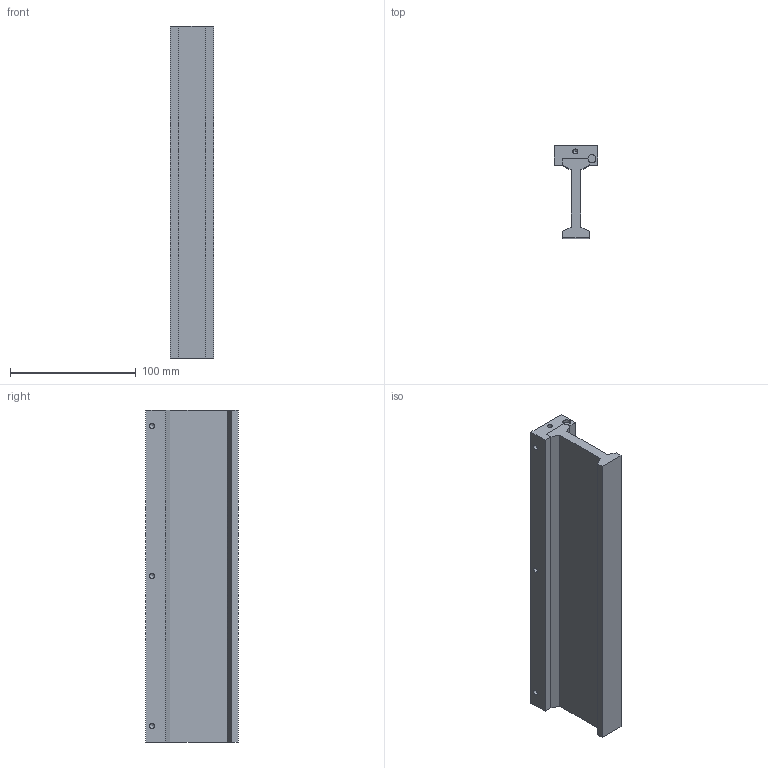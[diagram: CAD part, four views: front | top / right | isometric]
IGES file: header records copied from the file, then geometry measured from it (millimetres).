
Global section: file name: No Iges File Name specified; native system: AutoDesk Inventor R11.0; preprocessor: AutoDesk Inventor Iges Exporter R11.0; author: No Author specified; organization: No Organization specified; date: 20080205.101052; units: inch
Bounding box: 34.29 x 73.66 x 264.16 mm (x, y, z)
Volume: 293498.5 mm3; surface area: 64154.2 mm2
Topology: 1 solids, 1 shells, 41 faces, 105 edges, 61 vertices
Faces by surface type: bspline 20, plane 19, revolution 2
